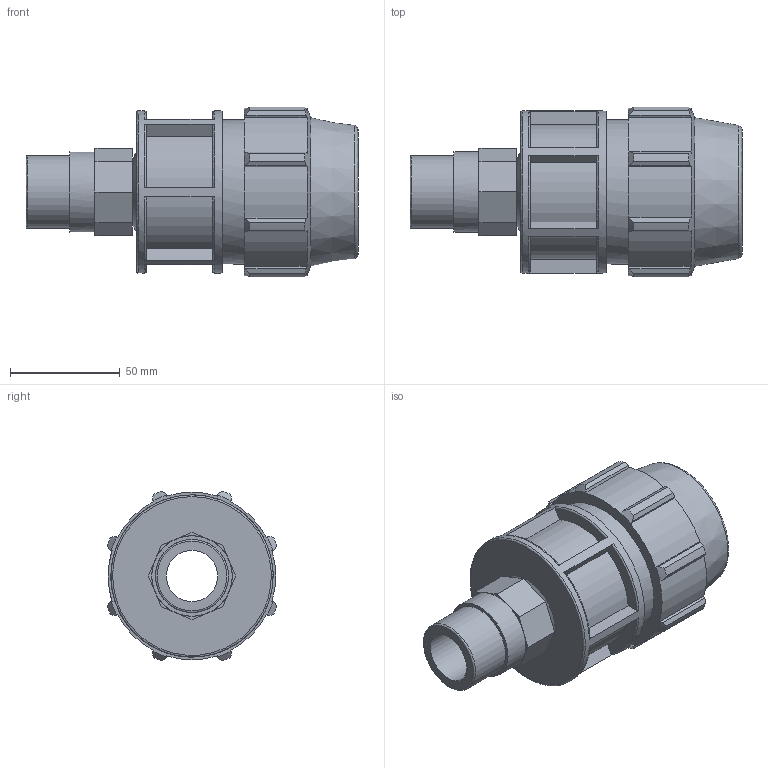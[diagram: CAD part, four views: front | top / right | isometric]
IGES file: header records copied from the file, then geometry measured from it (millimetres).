
Global section: file name: 077200040010_187200040010_0772060400100A.ipt; native system: Autodesk Inventor 2015; preprocessor: unknown; author: KIM; date: 20170606.174244; units: millimetre
Bounding box: 151 x 77.16 x 77.16 mm (x, y, z)
Volume: 279354.4 mm3; surface area: 58709.9 mm2
Topology: 1 solids, 1 shells, 137 faces, 367 edges, 244 vertices
Faces by surface type: plane 81, cylinder 26, revolution 19, cone 11
Full cylindrical faces by diameter (mm): 33.249 x1, 36.574 x1, 65.6 x1, 73.8 x1
